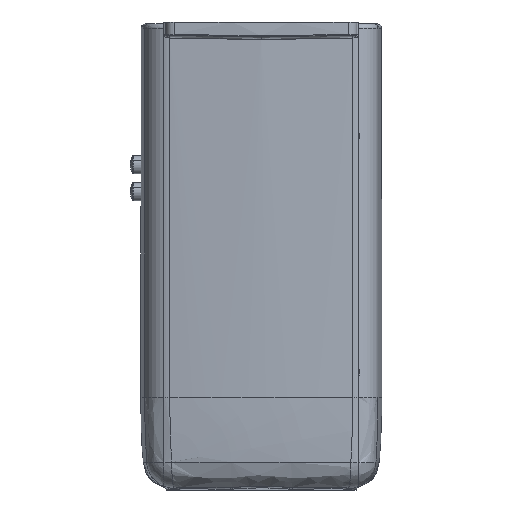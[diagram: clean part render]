
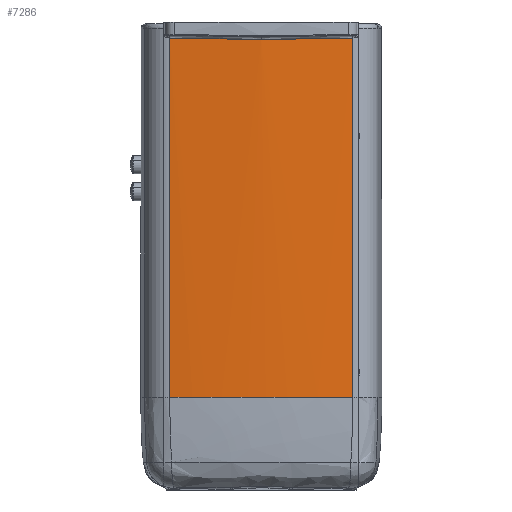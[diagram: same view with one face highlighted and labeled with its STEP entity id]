
A CAD part, left-side view. The second image highlights one B-rep face of the part: STEP entity #7286.
In plain terms, the highlighted cylindrical face has radius 1050 mm (diameter 2100 mm), a partial arc.
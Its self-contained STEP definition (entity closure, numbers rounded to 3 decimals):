
#5856=CARTESIAN_POINT('Vertex',(-120.341,-98.802,-405.)) ;
#5860=CARTESIAN_POINT('Control Point',(-120.341,98.802,-405.)) ;
#5861=CARTESIAN_POINT('Control Point',(-120.773,94.236,-405.)) ;
#5862=CARTESIAN_POINT('Control Point',(-121.18,89.661,-405.)) ;
#5863=CARTESIAN_POINT('Control Point',(-121.57,85.004,-405.)) ;
#5864=CARTESIAN_POINT('Control Point',(-122.345,75.09,-405.)) ;
#5865=CARTESIAN_POINT('Control Point',(-123.072,63.995,-405.)) ;
#5866=CARTESIAN_POINT('Control Point',(-123.434,57.861,-405.)) ;
#5867=CARTESIAN_POINT('Control Point',(-124.069,45.614,-405.)) ;
#5868=CARTESIAN_POINT('Control Point',(-124.6,30.239,-405.)) ;
#5869=CARTESIAN_POINT('Control Point',(-124.806,22.534,-405.)) ;
#5870=CARTESIAN_POINT('Control Point',(-125.091,6.114,-405.)) ;
#5871=CARTESIAN_POINT('Control Point',(-124.966,-14.998,-405.)) ;
#5872=CARTESIAN_POINT('Control Point',(-124.779,-26.046,-405.)) ;
#5873=CARTESIAN_POINT('Control Point',(-124.131,-46.314,-405.)) ;
#5874=CARTESIAN_POINT('Control Point',(-122.757,-69.519,-405.)) ;
#5875=CARTESIAN_POINT('Control Point',(-122.093,-78.979,-405.)) ;
#5876=CARTESIAN_POINT('Control Point',(-121.29,-88.763,-405.)) ;
#5877=CARTESIAN_POINT('Control Point',(-120.341,-98.802,-405.)) ;
#5878=CARTESIAN_POINT('Vertex',(-120.341,98.802,-405.)) ;
#6681=CARTESIAN_POINT('Line Origine',(-120.341,-98.802,-209.55)) ;
#6685=CARTESIAN_POINT('Vertex',(-120.341,-98.802,-17.271)) ;
#6945=CARTESIAN_POINT('Line Origine',(-120.341,98.802,-209.55)) ;
#6949=CARTESIAN_POINT('Vertex',(-120.341,98.802,-17.271)) ;
#7260=CARTESIAN_POINT('Axis2P3D Location',(925.,0.,-211.135)) ;
#7266=CARTESIAN_POINT('Control Point',(-125.,0.,-19.)) ;
#7267=CARTESIAN_POINT('Control Point',(-125.,-32.983,-18.423)) ;
#7268=CARTESIAN_POINT('Control Point',(-123.445,-65.966,-17.846)) ;
#7269=CARTESIAN_POINT('Control Point',(-120.341,-98.802,-17.271)) ;
#7270=CARTESIAN_POINT('Vertex',(-125.,0.,-19.)) ;
#7274=CARTESIAN_POINT('Control Point',(-120.341,98.802,-17.271)) ;
#7275=CARTESIAN_POINT('Control Point',(-123.445,65.966,-17.846)) ;
#7276=CARTESIAN_POINT('Control Point',(-125.,32.983,-18.423)) ;
#7277=CARTESIAN_POINT('Control Point',(-125.,0.,-19.)) ;
#6682=DIRECTION('Vector Direction',(0.,0.,-1.)) ;
#6946=DIRECTION('Vector Direction',(0.,0.,-1.)) ;
#7261=DIRECTION('Axis2P3D Direction',(0.,-0.,1.)) ;
#7262=DIRECTION('Axis2P3D XDirection',(-0.996,0.094,0.)) ;
#7263=AXIS2_PLACEMENT_3D('Cylinder Axis2P3D',#7260,#7261,#7262) ;
#7280=ORIENTED_EDGE('',*,*,#6951,.F.) ;
#7281=ORIENTED_EDGE('',*,*,#5880,.F.) ;
#7282=ORIENTED_EDGE('',*,*,#6687,.F.) ;
#7283=ORIENTED_EDGE('',*,*,#7272,.T.) ;
#7284=ORIENTED_EDGE('',*,*,#7278,.T.) ;
#6683=VECTOR('Line Direction',#6682,1.) ;
#6947=VECTOR('Line Direction',#6946,1.) ;
#7286=ADVANCED_FACE('E__A I_____',(#7285),#7264,.T.) ;
#5859=B_SPLINE_CURVE_WITH_KNOTS('',5,(#5860,#5861,#5862,#5863,#5864,#5865,#5866,#5867,#5868,#5869,#5870,#5871,#5872,#5873,#5874,#5875,#5876,#5877),.UNSPECIFIED.,.F.,.U.,(6,3,3,3,3,6),(0.,167.686,344.5,487.768,613.357,693.864),.UNSPECIFIED.) ;
#7265=B_SPLINE_CURVE_WITH_KNOTS('',3,(#7266,#7267,#7268,#7269),.UNSPECIFIED.,.F.,.U.,(4,4),(0.,139.982),.UNSPECIFIED.) ;
#7273=B_SPLINE_CURVE_WITH_KNOTS('',3,(#7274,#7275,#7276,#7277),.UNSPECIFIED.,.F.,.U.,(4,4),(0.,139.982),.UNSPECIFIED.) ;
#7264=CYLINDRICAL_SURFACE('generated cylinder',#7263,1050.) ;
#5880=EDGE_CURVE('',#5857,#5879,#5859,.F.) ;
#6687=EDGE_CURVE('',#6686,#5857,#6684,.T.) ;
#6951=EDGE_CURVE('',#5879,#6950,#6948,.F.) ;
#7272=EDGE_CURVE('',#6686,#7271,#7265,.F.) ;
#7278=EDGE_CURVE('',#7271,#6950,#7273,.F.) ;
#7279=EDGE_LOOP('',(#7280,#7281,#7282,#7283,#7284)) ;
#7285=FACE_OUTER_BOUND('',#7279,.T.) ;
#6684=LINE('Line',#6681,#6683) ;
#6948=LINE('Line',#6945,#6947) ;
#5857=VERTEX_POINT('',#5856) ;
#5879=VERTEX_POINT('',#5878) ;
#6686=VERTEX_POINT('',#6685) ;
#6950=VERTEX_POINT('',#6949) ;
#7271=VERTEX_POINT('',#7270) ;
